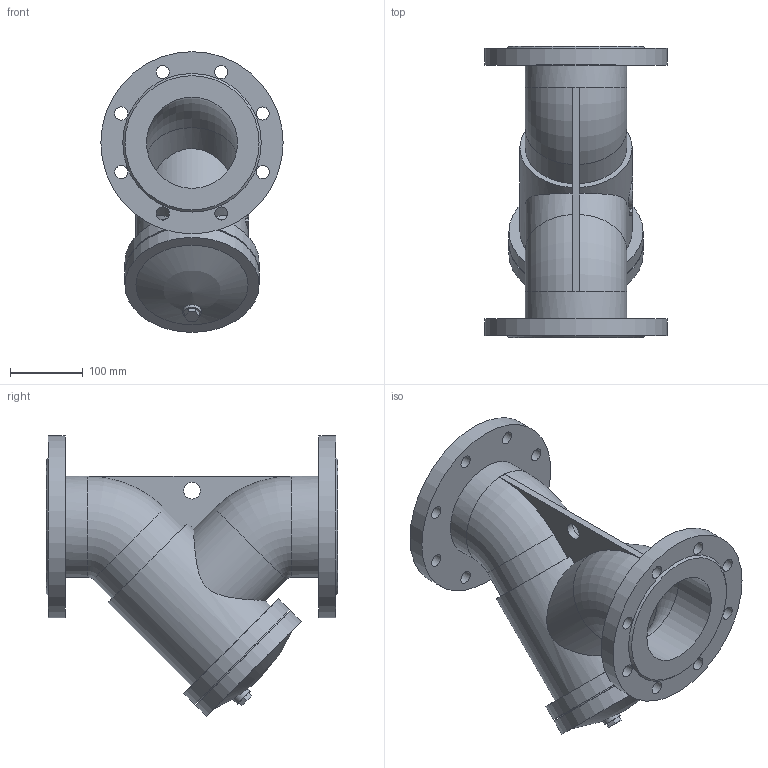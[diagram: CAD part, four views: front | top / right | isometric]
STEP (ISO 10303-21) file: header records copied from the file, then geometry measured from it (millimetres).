
FILE_DESCRIPTION(('STEP AP203'), '1');
FILE_NAME('Ôèëüòð ñåò÷àòûé ôëàíöåâûé 021Y DN125 PN10_PN16', '', ('UNSPECIFIED'), ('UNSPECIFIED'), 'ASCON STEP Converter 1.6', 'ASCON Math Kernel', '');
FILE_SCHEMA(('CONFIG_CONTROL_DESIGN'));
Length unit declared in the file: millimetre
Bounding box: 250 x 400 x 385 mm (x, y, z)
Volume: 6921026.7 mm3; surface area: 624545.7 mm2
Topology: 1 solids, 1 shells, 84 faces, 194 edges, 125 vertices
Faces by surface type: cylinder 40, plane 37, torus 4, cone 2, sphere 1
Full cylindrical faces by diameter (mm): 18 x16, 23 x1, 25 x1, 125 x4, 139 x2, 154 x1, 172 x1, 184 x2, 250 x2
Entity records: 4142 total; most frequent: CARTESIAN_POINT 1546, DIRECTION 399, ORIENTED_EDGE 314, AXIS2_PLACEMENT_3D 170, EDGE_LOOP 167, EDGE_CURVE 157, VERTEX_POINT 124, FACE_BOUND 102
